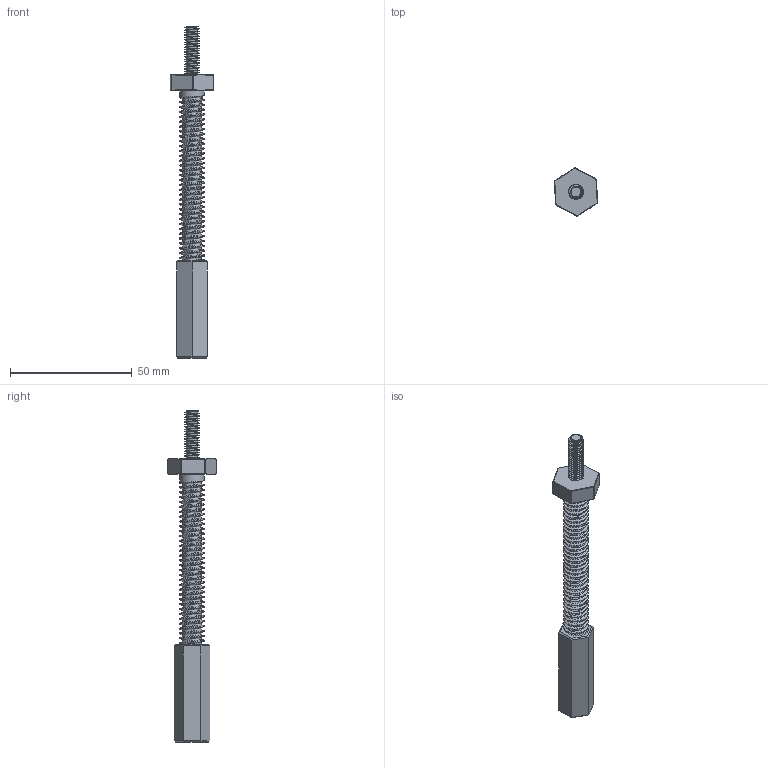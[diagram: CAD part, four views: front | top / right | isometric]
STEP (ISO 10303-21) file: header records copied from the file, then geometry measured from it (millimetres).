
FILE_DESCRIPTION(/* description */ ('Unknown'),/* implementation_level */ '2;1');
FILE_NAME(/* name */ 'Treppo 100',/* time_stamp */ '2020-05-04T15:53:14+02:00',/* author */ ('Unknown'),/* organization */ ('Unknown'),/* preprocessor_version */ 'ST-DEVELOPER v16.7',/* originating_system */ 'DEX',/* authorisation */ $);
FILE_SCHEMA (('AUTOMOTIVE_DESIGN {1 0 10303 214 3 1 1}'));
Length unit declared in the file: millimetre
Products named in the file (4): Treppo 100; Langmutter Mx40; Gewindestange; M 10x100.m.Gwinde
Assembly tree (3 placements, depth 2):
  Treppo 100
    Langmutter Mx40
    Gewindestange
    M 10x100.m.Gwinde
Bounding box: 17.8 x 19.79 x 136.5 mm (x, y, z)
Volume: 11239 mm3; surface area: 7394.1 mm2
Topology: 2 solids, 3 shells, 126 faces, 307 edges, 187 vertices
Faces by surface type: plane 62, cylinder 53, bspline 5, cone 3, torus 3
Full cylindrical faces by diameter (mm): 8.8 x1, 10 x49
Entity records: 14722 total; most frequent: CARTESIAN_POINT 13148, DIRECTION 295, ORIENTED_EDGE 292, EDGE_CURVE 146, LINE 117, VECTOR 117, AXIS2_PLACEMENT_3D 89, EDGE_LOOP 86
